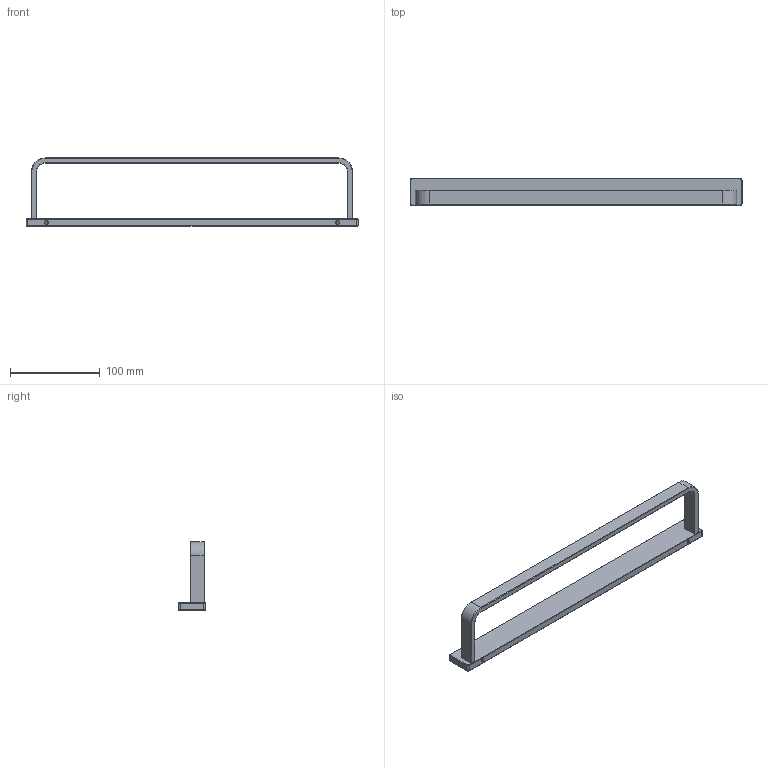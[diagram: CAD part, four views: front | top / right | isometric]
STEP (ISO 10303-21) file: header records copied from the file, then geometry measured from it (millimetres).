
FILE_DESCRIPTION(/* description */ (''),/* implementation_level */ '2;1');
FILE_NAME(/* name */ 'c:\worker\convert-fusion-r05\tmp\job-1\5\output\files\4ad0e281-0079-481f-8acb-483d0f1dd8ac\03b1a018-409c-4854-a923-c6dd884e4667.stp',/* time_stamp */ '2019-07-12T08:53:52+00:00',/* author */ (''),/* organization */ (''),/* preprocessor_version */ 'ST-DEVELOPER v18',/* originating_system */ 'Autodesk Translation Framework v8.2.0.1029',/* authorisation */ '');
FILE_SCHEMA (('AUTOMOTIVE_DESIGN { 1 0 10303 214 3 1 1 }'));
Length unit declared in the file: millimetre
Products named in the file (1): !DA70230
Bounding box: 370 x 30 x 76 mm (x, y, z)
Volume: 133769.7 mm3; surface area: 48816.3 mm2
Topology: 2 solids, 2 shells, 72 faces, 166 edges, 100 vertices
Faces by surface type: cylinder 30, plane 26, torus 16
Full cylindrical faces by diameter (mm): 4 x2
Entity records: 2070 total; most frequent: DIRECTION 396, CARTESIAN_POINT 339, ORIENTED_EDGE 332, EDGE_CURVE 166, AXIS2_PLACEMENT_3D 157, VERTEX_POINT 100, CIRCLE 84, LINE 82
